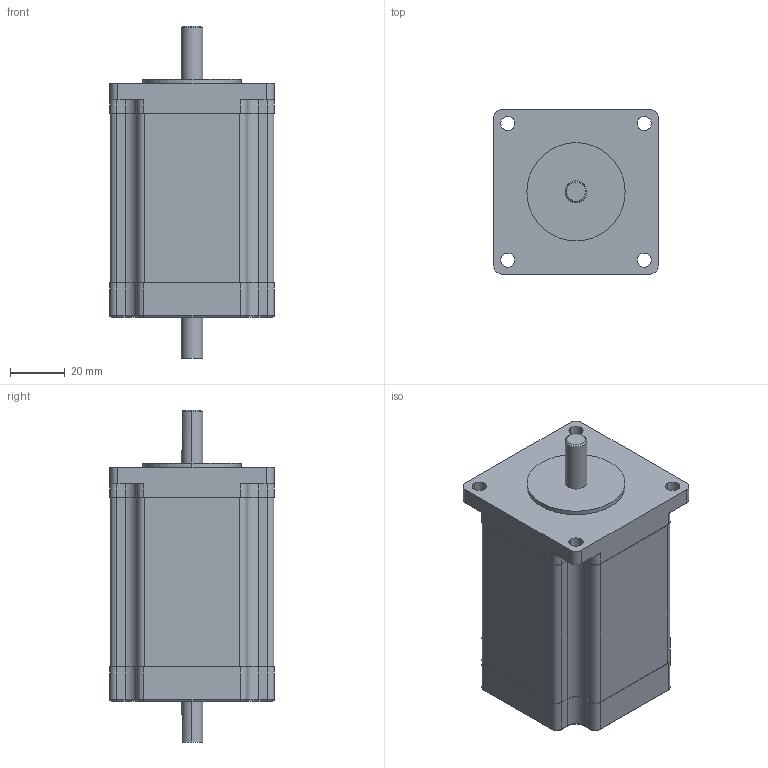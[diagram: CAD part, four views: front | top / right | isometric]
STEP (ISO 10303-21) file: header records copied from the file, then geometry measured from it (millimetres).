
FILE_DESCRIPTION (( 'STEP AP203' ), '1' );
FILE_NAME ('60CM30X-SZ.STEP', '2021-04-21T11:17:02', ( 'Owner' ), ( 'Organization' ), 'SwSTEP 2.0', 'SolidWorks 2020', '' );
FILE_SCHEMA (( 'CONFIG_CONTROL_DESIGN' ));
Length unit declared in the file: millimetre
Products named in the file (1): 60CM30X-SZ
Bounding box: 60.2 x 60.2 x 121.5 mm (x, y, z)
Volume: 279787.4 mm3; surface area: 27713.9 mm2
Topology: 1 solids, 1 shells, 132 faces, 348 edges, 223 vertices
Faces by surface type: cylinder 66, plane 51, torus 12, cone 3
Entity records: 4208 total; most frequent: DIRECTION 763, CARTESIAN_POINT 716, ORIENTED_EDGE 696, EDGE_CURVE 348, AXIS2_PLACEMENT_3D 284, VERTEX_POINT 223, VECTOR 195, LINE 195
